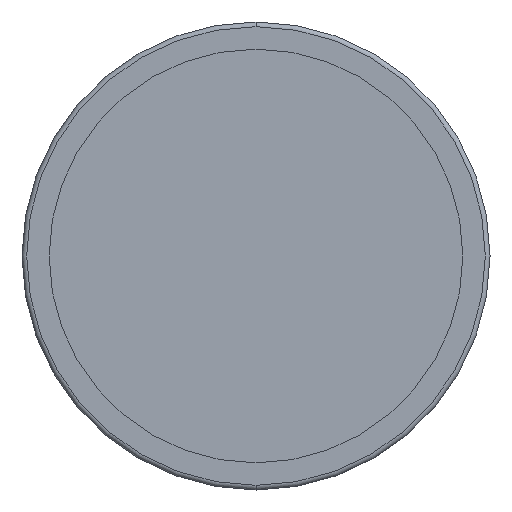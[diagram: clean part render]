
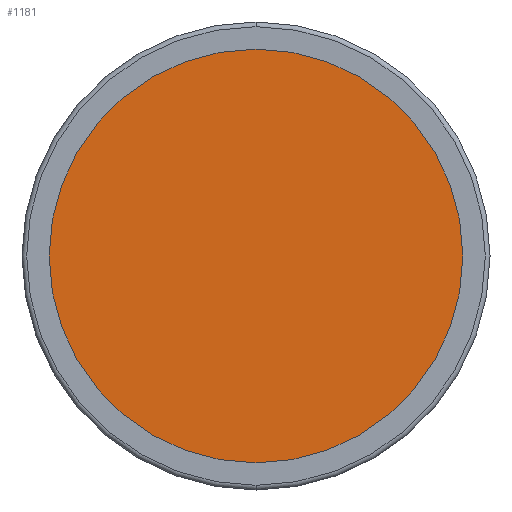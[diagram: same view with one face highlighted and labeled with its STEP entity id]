
A CAD part, front view. The second image highlights one B-rep face of the part: STEP entity #1181.
In plain terms, the highlighted planar face has unit normal (0, -1, 0).
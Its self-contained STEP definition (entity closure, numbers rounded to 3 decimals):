
#97 = CIRCLE ( 'NONE', #2678, 43.75 ) ;
#209 = CIRCLE ( 'NONE', #585, 43.75 ) ;
#585 = AXIS2_PLACEMENT_3D ( 'NONE', #1409, #1172, #912 ) ;
#607 = DIRECTION ( 'NONE',  ( 0., -1., 0. ) ) ;
#912 = DIRECTION ( 'NONE',  ( 0., 0., 1. ) ) ;
#1095 = CARTESIAN_POINT ( 'NONE',  ( 0., -3., 0. ) ) ;
#1129 = EDGE_LOOP ( 'NONE', ( #2337, #1614 ) ) ;
#1172 = DIRECTION ( 'NONE',  ( 0., 1., 0. ) ) ;
#1181 = ADVANCED_FACE ( 'NONE', ( #2316 ), #1786, .T. ) ;
#1225 = AXIS2_PLACEMENT_3D ( 'NONE', #2817, #607, #1598 ) ;
#1352 = DIRECTION ( 'NONE',  ( 0., 1., 0. ) ) ;
#1398 = VERTEX_POINT ( 'NONE', #2267 ) ;
#1409 = CARTESIAN_POINT ( 'NONE',  ( 0., -3., 0. ) ) ;
#1598 = DIRECTION ( 'NONE',  ( 0., 0., -1. ) ) ;
#1614 = ORIENTED_EDGE ( 'NONE', *, *, #2432, .F. ) ;
#1786 = PLANE ( 'NONE',  #1225 ) ;
#1869 = CARTESIAN_POINT ( 'NONE',  ( 0., -3., -43.75 ) ) ;
#2188 = VERTEX_POINT ( 'NONE', #1869 ) ;
#2214 = EDGE_CURVE ( 'NONE', #1398, #2188, #209, .T. ) ;
#2267 = CARTESIAN_POINT ( 'NONE',  ( 0., -3., 43.75 ) ) ;
#2316 = FACE_OUTER_BOUND ( 'NONE', #1129, .T. ) ;
#2337 = ORIENTED_EDGE ( 'NONE', *, *, #2214, .F. ) ;
#2432 = EDGE_CURVE ( 'NONE', #2188, #1398, #97, .T. ) ;
#2508 = DIRECTION ( 'NONE',  ( 0., 0., 1. ) ) ;
#2678 = AXIS2_PLACEMENT_3D ( 'NONE', #1095, #1352, #2508 ) ;
#2817 = CARTESIAN_POINT ( 'NONE',  ( -43.75, -3., 0. ) ) ;
